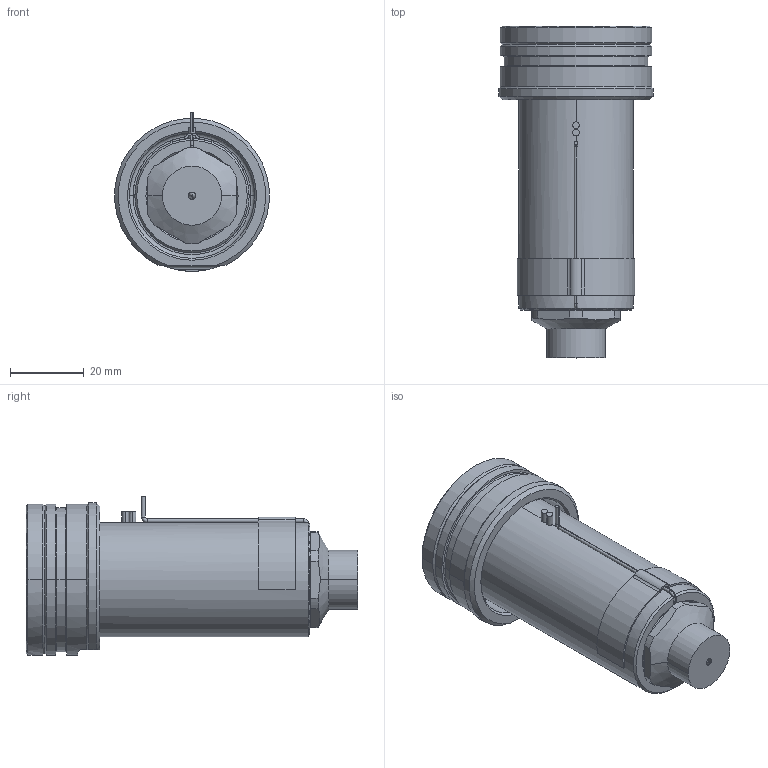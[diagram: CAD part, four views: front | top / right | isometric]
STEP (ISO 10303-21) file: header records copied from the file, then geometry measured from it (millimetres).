
FILE_DESCRIPTION((''),'2;1');
FILE_NAME('EO12_PG-FB_WR_070_SW','2024-02-19T11:38:38',('sundharh'),(''),'CREO PARAMETRIC BY PTC INC, 2023154','CREO PARAMETRIC BY PTC INC, 2023154','');
FILE_SCHEMA(('CONFIG_CONTROL_DESIGN'));
Length unit declared in the file: millimetre
Products named in the file (1): EO12_PG-FB_WR_070_SW
Bounding box: 41.85 x 90 x 43 mm (x, y, z)
Volume: 62216.2 mm3; surface area: 20243.3 mm2
Topology: 2 solids, 3 shells, 218 faces, 583 edges, 359 vertices
Faces by surface type: cylinder 82, plane 60, cone 43, torus 27, sphere 3, bspline 3
Entity records: 7854 total; most frequent: CARTESIAN_POINT 2283, DIRECTION 1227, ORIENTED_EDGE 1158, EDGE_CURVE 579, AXIS2_PLACEMENT_3D 516, VERTEX_POINT 359, CIRCLE 301, EDGE_LOOP 236
